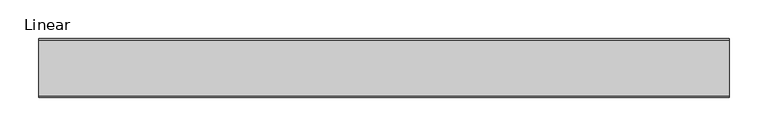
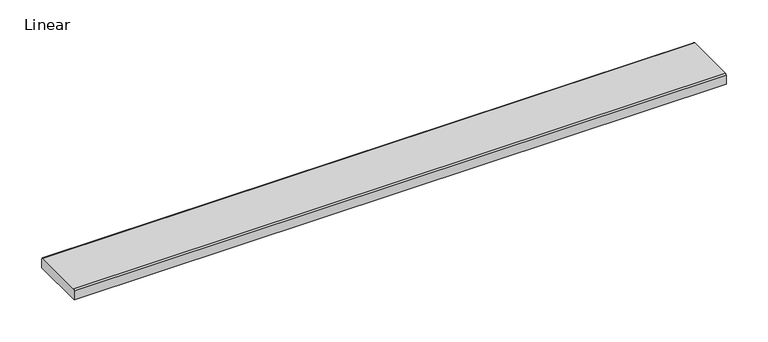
"""IFC4 building model written with IfcOpenShell, lengths in millimetres: sanitary terminal geometry, ZZZ_do not use_PF_UN_grating for ShowerDrain E and M series_ACO : Linear."""

from ifc_helpers import new_model, si_unit, point, frame, frame_2d, origin, place, context, project, spatial, polyline, circle_curve, trimmed, segment, composite_curve, outline, extrude, source, transform, mapped, element, save


def linear_b26b8363(model_context):
    return source(origin(), model_context, "Body", "SweptSolid", [
        extrude(outline(composite_curve([segment(polyline([(38.5, -15.0), (-38.5, -15.0), (-38.5, -1.977849)]), True, "CONTINUOUS"), segment(trimmed(circle_curve(frame_2d((-36.522151, -1.977849)), 1.977849), [point((-38.5, -1.977849))], [point((-36.522151, 0.0))], False, "CARTESIAN"), True, "CONTINUOUS"), segment(polyline([(-36.522151, 0.0), (36.522151, 0.0)]), True, "CONTINUOUS"), segment(trimmed(circle_curve(frame_2d((36.522151, -1.977849)), 1.977849), [point((36.522151, 0.0))], [point((38.5, -1.977849))], False, "CARTESIAN"), True, "CONTINUOUS"), segment(polyline([(38.5, -1.977849), (38.5, -15.0)]), True, "CONTINUOUS")], self_intersect=False)), frame((-448.0, 0.0, 0.0), z_axis=(1.0, 0.0, 0.0), x_axis=(0.0, 1.0, 0.0)), (0.0, 0.0, 1.0), 896.0),
    ])


if __name__ == "__main__":
    model = new_model("IFC4")
    model_context = context("Model", 3, world=origin())
    ifc_project = project(units=[si_unit("LENGTHUNIT", "METRE", prefix="MILLI")], contexts=[model_context])
    site = spatial("IfcSite", under=ifc_project)
    building = spatial("IfcBuilding", under=site)
    placement = place(None, origin())
    linear_shape = linear_b26b8363(model_context)
    element("IfcSanitaryTerminal", 1, ObjectType="ZZZ_do not use_PF_UN_grating for ShowerDrain E and M series_ACO : Linear", at=placement, inside=building, context=model_context, shape_type="MappedRepresentation", body=[
        mapped(linear_shape, transform((0.0, 0.0, 0.0), x_axis=(1.0, 0.0, 0.0), y_axis=(0.0, 1.0, 0.0), z_axis=(0.0, 0.0, 1.0))),
    ])
    save(model, "model.ifc")
